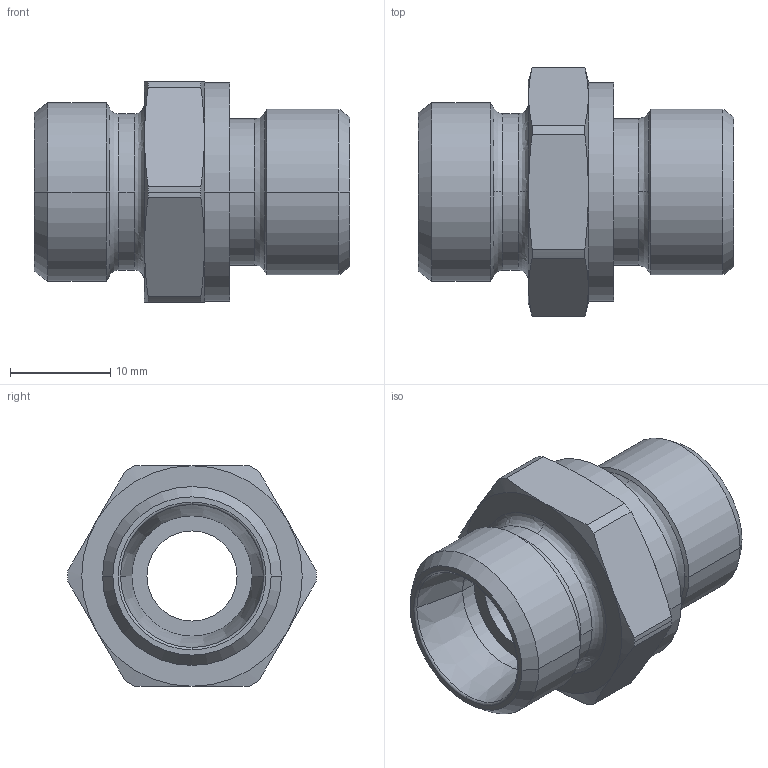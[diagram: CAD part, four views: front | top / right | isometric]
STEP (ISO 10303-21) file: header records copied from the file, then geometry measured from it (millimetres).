
FILE_DESCRIPTION((''),'2;1');
FILE_NAME('100507.stp','2007-10-30T14:17:46',(''),(''),'AutoCAD STEP 2000i','AutoCAD 2000i',', , ');
FILE_SCHEMA(('CONFIG_CONTROL_DESIGN'));
Length unit declared in the file: millimetre
Products named in the file (2): 100507.0; CHIAVE SMUSSATA#0
Assembly tree (1 placements, depth 2):
  100507.0
    CHIAVE SMUSSATA#0
Bounding box: 31.5 x 24.8 x 22 mm (x, y, z)
Volume: 5635.5 mm3; surface area: 3594.1 mm2
Topology: 1 solids, 1 shells, 75 faces, 185 edges, 117 vertices
Faces by surface type: cylinder 24, cone 24, plane 13, bspline 12, torus 2
Entity records: 2835 total; most frequent: CARTESIAN_POINT 955, DIRECTION 410, ORIENTED_EDGE 370, EDGE_CURVE 185, AXIS2_PLACEMENT_3D 184, CIRCLE 119, VERTEX_POINT 117, EDGE_LOOP 82
